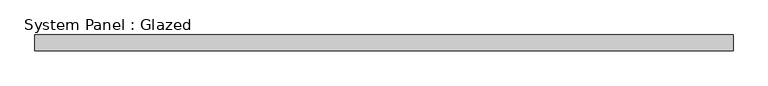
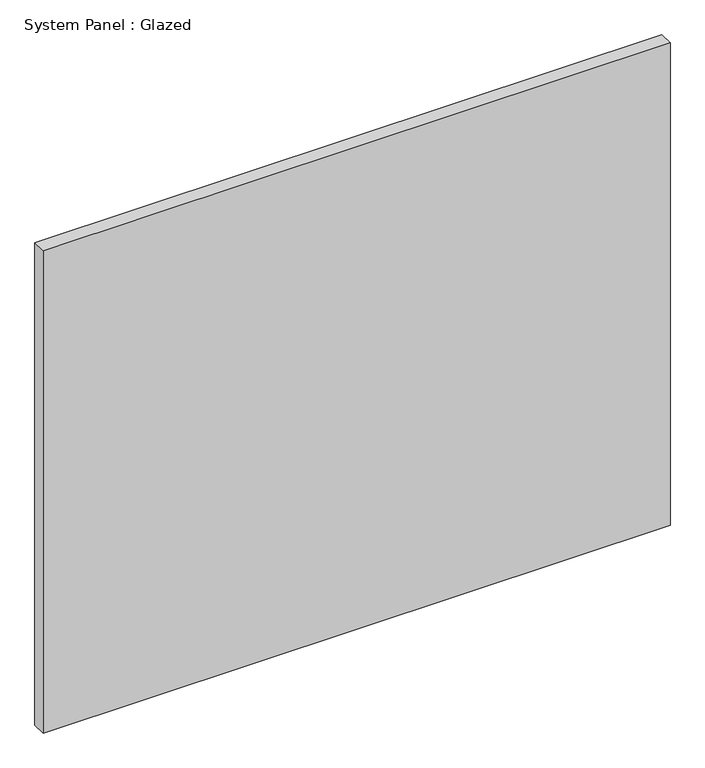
"""IFC4 building model written with IfcOpenShell, lengths in millimetres: plate geometry, System Panel : Glazed."""

from ifc_helpers import new_model, si_unit, origin, origin_with_axes, place, context, project, spatial, polyline, outline, extrude, source, transform, mapped, element, save


def system_panel_glazed_29cc1cf6(model_context):
    return source(origin(), model_context, "Body", "SweptSolid", [
        extrude(outline(polyline([(556.5841229, 24.5), (-556.5841229, 24.5), (-556.5841229, 49.5), (556.5841229, 49.5), (556.5841229, 24.5)])), origin_with_axes(), (0.0, 0.0, 1.0), 905.5153381),
    ])


if __name__ == "__main__":
    model = new_model("IFC4")
    model_context = context("Model", 3, world=origin())
    ifc_project = project(units=[si_unit("LENGTHUNIT", "METRE", prefix="MILLI")], contexts=[model_context])
    site = spatial("IfcSite", under=ifc_project)
    building = spatial("IfcBuilding", under=site)
    placement = place(None, origin())
    system_panel_glazed_shape = system_panel_glazed_29cc1cf6(model_context)
    element("IfcPlate", 1, ObjectType="System Panel : Glazed", at=placement, inside=building, context=model_context, shape_type="MappedRepresentation", body=[
        mapped(system_panel_glazed_shape, transform((0.0, 0.0, 0.0), x_axis=(1.0, 0.0, 0.0), y_axis=(0.0, 1.0, 0.0), z_axis=(0.0, 0.0, 1.0))),
    ])
    save(model, "model.ifc")
